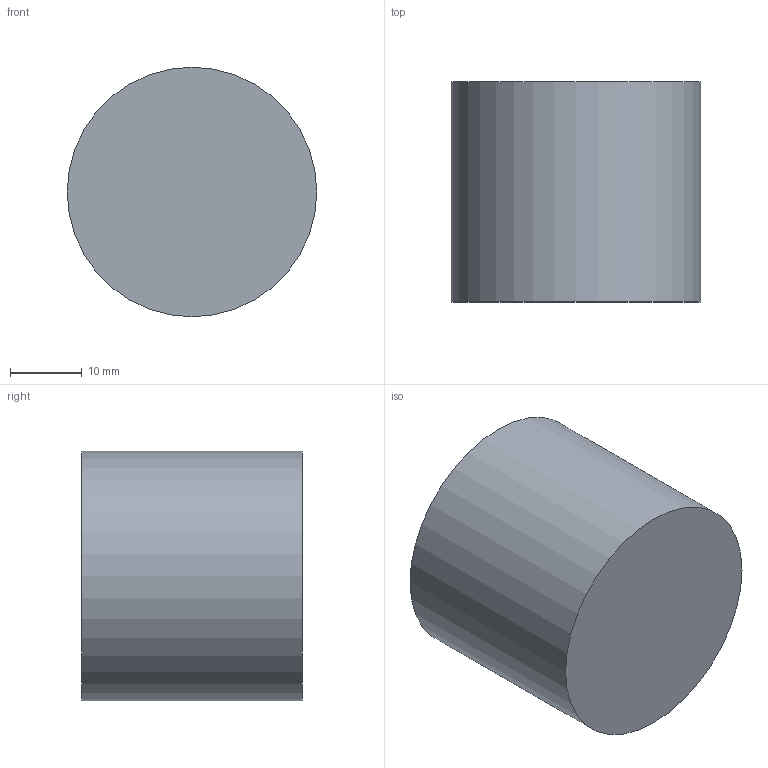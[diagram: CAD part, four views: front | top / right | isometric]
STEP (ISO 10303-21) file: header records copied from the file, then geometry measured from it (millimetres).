
FILE_DESCRIPTION(('Open CASCADE Model'),'2;1');
FILE_NAME('Open CASCADE Shape Model','2026-10-13T11:47:37',('Author'),( 'Open CASCADE'),'Open CASCADE STEP processor 7.8','Open CASCADE 7.8' ,'Unknown');
FILE_SCHEMA(('AUTOMOTIVE_DESIGN { 1 0 10303 214 1 1 1 1 }'));
Length unit declared in the file: millimetre
Products named in the file (1): Open CASCADE STEP translator 7.8 45
Bounding box: 34.8 x 30.7 x 34.8 mm (x, y, z)
Volume: 29200.3 mm3; surface area: 5258.6 mm2
Topology: 1 solids, 1 shells, 3 faces, 3 edges, 2 vertices
Faces by surface type: plane 2, cylinder 1
Full cylindrical faces by diameter (mm): 34.8 x1
Entity records: 108 total; most frequent: DIRECTION 19, CARTESIAN_POINT 15, AXIS2_PLACEMENT_3D 6, ORIENTED_EDGE 6, PCURVE 6, DEFINITIONAL_REPRESENTATION 6, LINE 5, VECTOR 5
